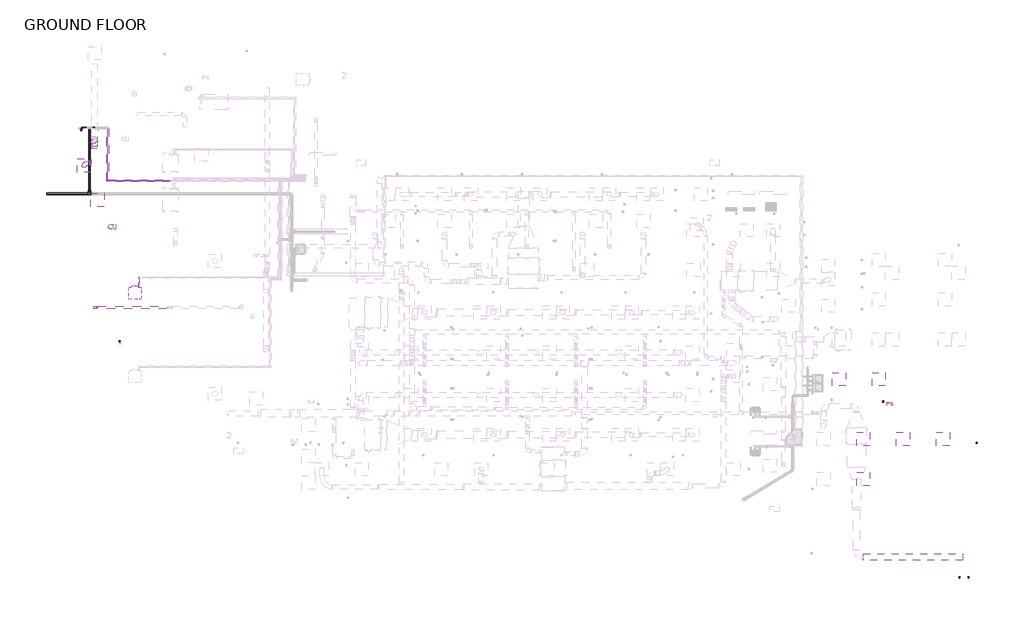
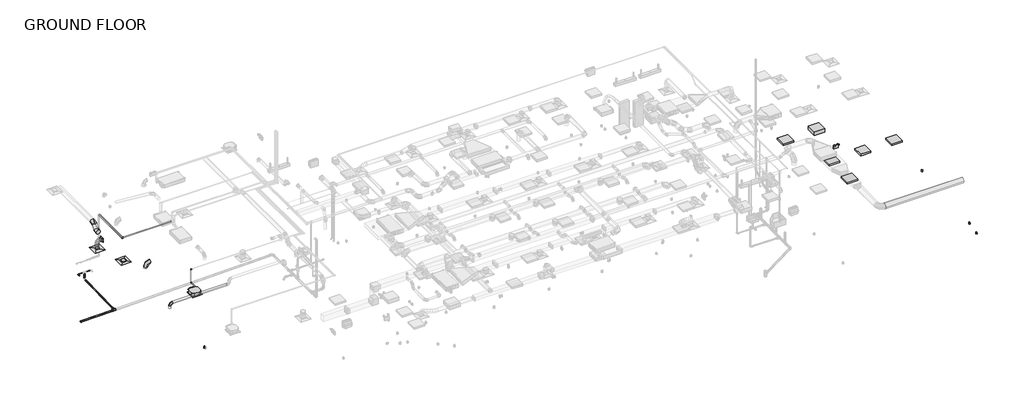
# One storey, part 10 of 22: 14 pipe segments, 9 pipe fittings, 7 light fixtures, 6 duct segments, 5 duct fittings, 3 proxies, 2 air terminals, 2 switching devices, 1 electric appliance.
"""IFC4 building model written with IfcOpenShell, lengths in millimetres."""

from ifc_helpers import new_model, si_unit, point, frame, frame_2d, origin, place, context, project, spatial, circle_curve, ellipse_curve, trimmed, segment, composite_curve, outline, extrude, transform, mapped, element, save
from ifc_brep_helpers import plane_surface, cylinder_surface, advanced_brep
from components import air_terminal_a1f6e78c, air_terminal_e9020785, mechanical_equipment_2d84379e, duplex_receptacle_countertop_10251bba, rectangular_to_round_transition_angle_45_degree_544928fe, round_elbow_1_d_df495868, round_elbow_1_d_c80420c1, round_elbow_1_d_ea3dccb8, telephone_outlet_data_plain_18c24199, emergency_wall_light_120v_37438f40, troffer_corner_insert_2x2_3_lamp_emergency_29e3a813, troffer_corner_insert_2x2_3lamp_e67c7f8f, bend_pvc_sch_40_dwv_standard_7031e9b3, elbow_generic_standard_c06ac706, elbow_generic_standard_a088f956, elbow_generic_standard_339fed54, reducer_pvc_sch_40_dwv_standard_464ee0c2, tee_sanitary_pvc_sch_40_dwv_standard_8cfb1b04

model = new_model("IFC4")

# Units and contexts
model_context = context("Model", 3, world=origin())
ifc_project = project(units=[si_unit("LENGTHUNIT", "METRE", prefix="MILLI")], contexts=[model_context])

# Site, building, storey
site = spatial("IfcSite", under=ifc_project)
building = spatial("IfcBuilding", under=site)
storey = spatial("IfcBuildingStorey", under=building, Name="GROUND FLOOR", Elevation=30480.0)

# Air terminals
placement = place(None, origin())
air_terminal_shape = air_terminal_a1f6e78c(model_context)
element("IfcAirTerminal", 1, ObjectType="Supply Diffuser - Rectangular Face Round Neck - Hosted : 24\"x24\" Face 10\" Neck - Hosted", at=placement, inside=storey, context=model_context, shape_type="MappedRepresentation", body=[
    mapped(air_terminal_shape, transform((-18995.0704607, 6554.1945005, 32715.2), x_axis=(-1.0, 0.0, 0.0), y_axis=(0.0, 1.0, 0.0), z_axis=(0.0, 0.0, -1.0))),
])
air_terminal_2_shape = air_terminal_e9020785(model_context)
element("IfcAirTerminal", 2, ObjectType="Supply Diffuser - Rectangular Face Round Neck - Hosted : 24\"x24\" Face 8\" Neck - Hosted", at=placement, inside=storey, context=model_context, shape_type="MappedRepresentation", body=[
    mapped(air_terminal_2_shape, transform((-19604.6704607, 8141.6945005, 32715.2), x_axis=(-1.0, 0.0, 0.0), y_axis=(0.0, 1.0, 0.0), z_axis=(0.0, 0.0, -1.0))),
])

# Proxies
mechanical_equipment_shape = mechanical_equipment_2d84379e(model_context)
element("IfcBuildingElementProxy", 3, Name="PLFY-P-NCMU-E_4-way_24x24 : PLFY-P12NCMU-E", ObjectType="PLFY-P-NCMU-E_4-way_24x24 : PLFY-P12NCMU-E", at=placement, inside=storey, context=model_context, shape_type="MappedRepresentation", body=[
    mapped(mechanical_equipment_shape, transform((-17276.6017107, 2201.5275529, 32715.2), x_axis=(1.0, 0.0, 0.0), y_axis=(0.0, -1.0, 0.0), z_axis=(0.0, 0.0, -1.0))),
])
duplex_receptacle_countertop_shape = duplex_receptacle_countertop_10251bba(model_context)
element("IfcBuildingElementProxy", 4, Name="Duplex Receptacle : Standard", ObjectType="Duplex Receptacle : Standard", at=placement, inside=storey, context=model_context, shape_type="MappedRepresentation", body=[
    mapped(duplex_receptacle_countertop_shape, transform((21007.7586319, -10752.7304995, 30937.2), x_axis=(-1.0, 0.0, 0.0), y_axis=(0.0, 0.0, 1.0), z_axis=(0.0, 1.0, 0.0))),
])
element("IfcBuildingElementProxy", 5, Name="Duplex Receptacle : Standard", ObjectType="Duplex Receptacle : Standard", at=placement, inside=storey, context=model_context, shape_type="MappedRepresentation", body=[
    mapped(duplex_receptacle_countertop_shape, transform((21366.2736799, -4602.187198, 30937.2), x_axis=(0.0, -1.0, 0.0), y_axis=(0.0, 0.0, 1.0), z_axis=(-1.0, 0.0, 0.0))),
])

# Duct fittings
rectangular_to_round_transition_angle_45_degree_shape = rectangular_to_round_transition_angle_45_degree_544928fe(model_context)
element("IfcDuctFitting", 6, ObjectType="Rectangular to Round Transition - Angle : 45 Degree", at=placement, inside=storey, context=model_context, shape_type="MappedRepresentation", body=[
    mapped(rectangular_to_round_transition_angle_45_degree_shape, transform((-19272.8829607, 8243.4520797, 33126.0074624), x_axis=(-0.9999999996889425, 0.0, 2.4942236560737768e-05), y_axis=(0.0, -1.0000000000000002, 0.0), z_axis=(2.4942236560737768e-05, 0.0, 0.9999999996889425))),
])
round_elbow_1_d_shape = round_elbow_1_d_df495868(model_context)
element("IfcDuctFitting", 7, ObjectType="Round Elbow : 1 D", at=placement, inside=storey, context=model_context, shape_type="MappedRepresentation", body=[
    mapped(round_elbow_1_d_shape, transform((-18385.4704607, 5334.9945005, 33121.6), x_axis=(0.0, 0.0, 1.0), y_axis=(1.0, 0.0, 0.0), z_axis=(0.0, 1.0, 0.0))),
])
round_elbow_1_d_2_shape = round_elbow_1_d_c80420c1(model_context)
element("IfcDuctFitting", 8, ObjectType="Round Elbow : 1 D", at=placement, inside=storey, context=model_context, shape_type="MappedRepresentation", body=[
    mapped(round_elbow_1_d_2_shape, transform((-19110.9579607, 1613.8945005, 33121.6), x_axis=(0.0, 0.0, 1.0), y_axis=(1.0, 0.0, 0.0), z_axis=(0.0, 1.0, 0.0))),
])
round_elbow_1_d_3_shape = round_elbow_1_d_ea3dccb8(model_context)
element("IfcDuctFitting", 9, ObjectType="Round Elbow : 1 D", at=placement, inside=storey, context=model_context, shape_type="MappedRepresentation", body=[
    mapped(round_elbow_1_d_3_shape, transform((-19120.4829607, 9003.6440535, 33126.0036612), x_axis=(0.0, 1.0, 0.0), y_axis=(0.0, 0.0, 1.0), z_axis=(1.0, 0.0, 0.0))),
])
element("IfcDuctFitting", 10, ObjectType="Round Elbow : 1 D", at=placement, inside=storey, context=model_context, shape_type="MappedRepresentation", body=[
    mapped(round_elbow_1_d_3_shape, transform((-19120.4829607, 9354.8403924, 33477.2), x_axis=(0.0, 0.707106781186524, 0.7071067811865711), y_axis=(0.0, 0.7071067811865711, -0.707106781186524), z_axis=(-1.0, 0.0, 0.0))),
])

# Duct segments
element("IfcDuctSegment", 11, ObjectType="Flex - Round", at=placement, inside=storey, context=model_context, shape_type="AdvancedBrep", body=[
    advanced_brep(
    [(-19334.2039851, 8141.8520797, 33126.0089919), (-19334.2065193, 8243.4520797, 33024.4089919), (-19334.2039851, 8345.0520797, 33126.0089919), (-19334.201451, 8243.4520797, 33227.6089918), (-19339.3953235, 8141.8520797, 33126.0091214), (-19340.589868, 8243.4520797, 33024.4091511), (-19337.3595831, 8345.0520797, 33126.0090706), (-19336.1650386, 8243.4520797, 33227.6090408), (-19571.3746602, 8045.7051799, 32769.175), (-19700.6597813, 8108.3987, 32769.175), (-19637.9662612, 8237.6838211, 32769.175), (-19508.6811401, 8174.990301, 32769.175), (-19406.4431173, 8143.1962762, 33128.9291558), (-19402.5083386, 8244.6934419, 33027.1057956), (-19412.9036409, 8346.5666122, 33129.2991304), (-19416.8384197, 8245.0694466, 33231.1224905), (-19458.1959934, 8138.8316889, 33119.2963139), (-19433.6401005, 8242.0679396, 33021.3111932), (-19496.173822, 8339.5440078, 33113.7999244), (-19520.7297149, 8236.3077571, 33211.785045), (-19497.1563337, 8124.9192335, 33086.9890267), (-19453.0278625, 8235.1447102, 33005.2341778), (-19559.6360729, 8316.8820975, 33061.1747893), (-19603.7645441, 8206.6566208, 33142.9296382), (-19530.1815615, 8102.0336622, 33028.1559055), (-19476.4370244, 8218.9228071, 32963.531693), (-19599.3318789, 8289.3739996, 32990.4583001), (-19653.076416, 8172.4848547, 33055.0825126), (-19553.6660683, 8076.2518524, 32949.9398995), (-19494.9390578, 8198.6108666, 32901.9099964), (-19622.8542209, 8263.5506536, 32912.116283), (-19681.5812314, 8141.1916394, 32960.1461861), (-19567.1119955, 8054.8656115, 32861.6704606), (-19505.5237169, 8181.7755775, 32832.4241281), (-19634.6883299, 8244.7280686, 32834.4280616), (-19696.2766085, 8117.8181025, 32863.6743941), (-19571.3746602, 8045.7051799, 32785.4279752), (-19508.6811401, 8174.990301, 32775.9501136), (-19637.9662612, 8237.6838211, 32775.7986259), (-19700.6597813, 8108.3987, 32785.2764875)],
    [
        (0, 1, circle_curve(frame((-19334.2039851, 8243.4520797, 33126.0089919), z_axis=(0.9999999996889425, 0.0, -2.4942236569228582e-05), x_axis=(0.0, -1.0, 0.0)), 101.6)),
        (1, 2, circle_curve(frame((-19334.2039851, 8243.4520797, 33126.0089919), z_axis=(0.9999999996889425, 0.0, -2.4942236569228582e-05), x_axis=(0.0, -1.0, 0.0)), 101.6)),
        (2, 3, circle_curve(frame((-19334.2039851, 8243.4520797, 33126.0089919), z_axis=(0.9999999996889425, 0.0, -2.4942236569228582e-05), x_axis=(0.0, -1.0, 0.0)), 101.6)),
        (3, 0, circle_curve(frame((-19334.2039851, 8243.4520797, 33126.0089919), z_axis=(0.9999999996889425, 0.0, -2.4942236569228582e-05), x_axis=(0.0, -1.0, 0.0)), 101.6)),
        (0, 4),
        (4, 5, ellipse_curve(frame((-19338.3774533, 8243.4520797, 33126.009096), z_axis=(0.9997128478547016, -0.010015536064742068, -0.02176949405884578), x_axis=(0.023962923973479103, 0.41823517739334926, 0.9080226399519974)), 101.6291279, 101.6)),
        (5, 1),
        (5, 6, ellipse_curve(frame((-19338.3774533, 8243.4520797, 33126.009096), z_axis=(0.9997128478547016, -0.010015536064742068, -0.02176949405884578), x_axis=(0.023962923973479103, 0.41823517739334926, 0.9080226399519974)), 101.6291279, 101.6)),
        (6, 2),
        (6, 7, ellipse_curve(frame((-19338.3774533, 8243.4520797, 33126.009096), z_axis=(0.9997128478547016, -0.010015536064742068, -0.02176949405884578), x_axis=(0.023962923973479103, 0.41823517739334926, 0.9080226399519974)), 101.6291279, 101.6)),
        (7, 3),
        (7, 4, ellipse_curve(frame((-19338.3774533, 8243.4520797, 33126.009096), z_axis=(0.9997128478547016, -0.010015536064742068, -0.02176949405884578), x_axis=(0.023962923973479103, 0.41823517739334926, 0.9080226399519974)), 101.6291279, 101.6)),
        (8, 9, circle_curve(frame((-19604.6704607, 8141.6945005, 32769.175), z_axis=(0.0, 0.0, -1.0), x_axis=(0.32771457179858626, -0.9447767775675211, 0.0)), 101.6)),
        (9, 10, circle_curve(frame((-19604.6704607, 8141.6945005, 32769.175), z_axis=(0.0, 0.0, -1.0), x_axis=(0.32771457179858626, -0.9447767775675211, 0.0)), 101.6)),
        (10, 11, circle_curve(frame((-19604.6704607, 8141.6945005, 32769.175), z_axis=(0.0, 0.0, -1.0), x_axis=(0.32771457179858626, -0.9447767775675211, 0.0)), 101.6)),
        (11, 8, circle_curve(frame((-19604.6704607, 8141.6945005, 32769.175), z_axis=(0.0, 0.0, -1.0), x_axis=(0.32771457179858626, -0.9447767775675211, 0.0)), 101.6)),
        (4, 12),
        (12, 13, ellipse_curve(frame((-19409.6733791, 8244.8814442, 33129.1141431), z_axis=(0.9970498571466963, 0.03154626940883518, 0.06997438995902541), x_axis=(0.07675629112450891, -0.4125398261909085, -0.9077000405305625)), 102.395597, 101.6)),
        (13, 5),
        (13, 14, ellipse_curve(frame((-19409.6733791, 8244.8814442, 33129.1141431), z_axis=(0.9970498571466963, 0.03154626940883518, 0.06997438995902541), x_axis=(0.07675629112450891, -0.4125398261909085, -0.9077000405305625)), 102.395597, 101.6)),
        (14, 6),
        (14, 15, ellipse_curve(frame((-19409.6733791, 8244.8814442, 33129.1141431), z_axis=(0.9970498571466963, 0.03154626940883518, 0.06997438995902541), x_axis=(0.07675629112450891, -0.4125398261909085, -0.9077000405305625)), 102.395597, 101.6)),
        (15, 7),
        (15, 12, ellipse_curve(frame((-19409.6733791, 8244.8814442, 33129.1141431), z_axis=(0.9970498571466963, 0.03154626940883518, 0.06997438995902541), x_axis=(0.07675629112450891, -0.4125398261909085, -0.9077000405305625)), 102.395597, 101.6)),
        (12, 16),
        (16, 17, ellipse_curve(frame((-19477.1849077, 8239.1878483, 33116.5481191), z_axis=(0.892486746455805, 0.18019602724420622, 0.41351759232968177), x_axis=(0.4510463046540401, -0.34642325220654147, -0.8225254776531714)), 105.3159408, 101.6)),
        (17, 13),
        (17, 18, ellipse_curve(frame((-19477.1849077, 8239.1878483, 33116.5481191), z_axis=(0.892486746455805, 0.18019602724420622, 0.41351759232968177), x_axis=(0.4510463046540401, -0.34642325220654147, -0.8225254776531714)), 105.3159408, 101.6)),
        (18, 14),
        (18, 19, ellipse_curve(frame((-19477.1849077, 8239.1878483, 33116.5481191), z_axis=(0.892486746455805, 0.18019602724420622, 0.41351759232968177), x_axis=(0.4510463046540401, -0.34642325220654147, -0.8225254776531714)), 105.3159408, 101.6)),
        (19, 15),
        (19, 16, ellipse_curve(frame((-19477.1849077, 8239.1878483, 33116.5481191), z_axis=(0.892486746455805, 0.18019602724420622, 0.41351759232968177), x_axis=(0.4510463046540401, -0.34642325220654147, -0.8225254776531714)), 105.3159408, 101.6)),
        (16, 20),
        (20, 21, ellipse_curve(frame((-19528.3962033, 8220.9006655, 33074.081908), z_axis=(0.612545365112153, 0.297830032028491, 0.7321785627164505), x_axis=(0.7880932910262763, -0.158863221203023, -0.5947028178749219)), 103.2263921, 101.6)),
        (21, 17),
        (21, 22, ellipse_curve(frame((-19528.3962033, 8220.9006655, 33074.081908), z_axis=(0.612545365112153, 0.297830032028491, 0.7321785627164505), x_axis=(0.7880932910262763, -0.158863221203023, -0.5947028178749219)), 103.2263921, 101.6)),
        (22, 18),
        (22, 23, ellipse_curve(frame((-19528.3962033, 8220.9006655, 33074.081908), z_axis=(0.612545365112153, 0.297830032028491, 0.7321785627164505), x_axis=(0.7880932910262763, -0.158863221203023, -0.5947028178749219)), 103.2263921, 101.6)),
        (23, 19),
        (23, 20, ellipse_curve(frame((-19528.3962033, 8220.9006655, 33074.081908), z_axis=(0.612545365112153, 0.297830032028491, 0.7321785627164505), x_axis=(0.7880932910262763, -0.158863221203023, -0.5947028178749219)), 103.2263921, 101.6)),
        (20, 24),
        (24, 25, ellipse_curve(frame((-19564.7567202, 8195.7038309, 33009.3071028), z_axis=(0.3709301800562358, 0.3128621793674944, 0.8743729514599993), x_axis=(0.9034628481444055, 0.09626809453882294, -0.4177168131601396)), 102.1623078, 101.6)),
        (25, 21),
        (25, 26, ellipse_curve(frame((-19564.7567202, 8195.7038309, 33009.3071028), z_axis=(0.3709301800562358, 0.3128621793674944, 0.8743729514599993), x_axis=(0.9034628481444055, 0.09626809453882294, -0.4177168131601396)), 102.1623078, 101.6)),
        (26, 22),
        (26, 27, ellipse_curve(frame((-19564.7567202, 8195.7038309, 33009.3071028), z_axis=(0.3709301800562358, 0.3128621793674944, 0.8743729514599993), x_axis=(0.9034628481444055, 0.09626809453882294, -0.4177168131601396)), 102.1623078, 101.6)),
        (27, 23),
        (27, 24, ellipse_curve(frame((-19564.7567202, 8195.7038309, 33009.3071028), z_axis=(0.3709301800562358, 0.3128621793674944, 0.8743729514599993), x_axis=(0.9034628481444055, 0.09626809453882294, -0.4177168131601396)), 102.1623078, 101.6)),
        (24, 28),
        (28, 29, ellipse_curve(frame((-19588.2601446, 8169.901253, 32931.0280912), z_axis=(0.21095319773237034, 0.26777325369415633, 0.9401043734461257), x_axis=(0.8374803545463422, 0.44647609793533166, -0.31509641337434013)), 101.8969452, 101.6)),
        (29, 25),
        (29, 30, ellipse_curve(frame((-19588.2601446, 8169.901253, 32931.0280912), z_axis=(0.21095319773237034, 0.26777325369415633, 0.9401043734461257), x_axis=(0.8374803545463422, 0.44647609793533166, -0.31509641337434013)), 101.8969452, 101.6)),
        (30, 26),
        (30, 31, ellipse_curve(frame((-19588.2601446, 8169.901253, 32931.0280912), z_axis=(0.21095319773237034, 0.26777325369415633, 0.9401043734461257), x_axis=(0.8374803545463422, 0.44647609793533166, -0.31509641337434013)), 101.8969452, 101.6)),
        (31, 27),
        (31, 28, ellipse_curve(frame((-19588.2601446, 8169.901253, 32931.0280912), z_axis=(0.21095319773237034, 0.26777325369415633, 0.9401043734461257), x_axis=(0.8374803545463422, 0.44647609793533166, -0.31509641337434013)), 101.8969452, 101.6)),
        (28, 32),
        (32, 33, ellipse_curve(frame((-19600.9001627, 8149.79684, 32848.0492611), z_axis=(0.10121724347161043, 0.17650886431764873, 0.9790810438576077), x_axis=(0.6117779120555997, 0.765023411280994, -0.20116402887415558)), 101.882316, 101.6)),
        (33, 29),
        (33, 34, ellipse_curve(frame((-19600.9001627, 8149.79684, 32848.0492611), z_axis=(0.10121724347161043, 0.17650886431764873, 0.9790810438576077), x_axis=(0.6117779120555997, 0.765023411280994, -0.20116402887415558)), 101.882316, 101.6)),
        (34, 30),
        (34, 35, ellipse_curve(frame((-19600.9001627, 8149.79684, 32848.0492611), z_axis=(0.10121724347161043, 0.17650886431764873, 0.9790810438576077), x_axis=(0.6117779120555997, 0.765023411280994, -0.20116402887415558)), 101.882316, 101.6)),
        (35, 31),
        (35, 32, ellipse_curve(frame((-19600.9001627, 8149.79684, 32848.0492611), z_axis=(0.10121724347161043, 0.17650886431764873, 0.9790810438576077), x_axis=(0.6117779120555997, 0.765023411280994, -0.20116402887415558)), 101.882316, 101.6)),
        (32, 36),
        (36, 37, ellipse_curve(frame((-19604.6704607, 8141.6945005, 32780.6133005), z_axis=(0.027772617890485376, 0.05968312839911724, 0.9978309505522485), x_axis=(0.42097828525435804, 0.9046788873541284, -0.06582852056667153)), 101.8208545, 101.6)),
        (37, 33),
        (37, 38, ellipse_curve(frame((-19604.6704607, 8141.6945005, 32780.6133005), z_axis=(0.027772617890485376, 0.05968312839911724, 0.9978309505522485), x_axis=(0.42097828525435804, 0.9046788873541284, -0.06582852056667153)), 101.8208545, 101.6)),
        (38, 34),
        (38, 39, ellipse_curve(frame((-19604.6704607, 8141.6945005, 32780.6133005), z_axis=(0.027772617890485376, 0.05968312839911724, 0.9978309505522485), x_axis=(0.42097828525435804, 0.9046788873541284, -0.06582852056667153)), 101.8208545, 101.6)),
        (39, 35),
        (39, 36, ellipse_curve(frame((-19604.6704607, 8141.6945005, 32780.6133005), z_axis=(0.027772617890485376, 0.05968312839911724, 0.9978309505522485), x_axis=(0.42097828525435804, 0.9046788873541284, -0.06582852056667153)), 101.8208545, 101.6)),
        (36, 8),
        (11, 37),
        (10, 38),
        (9, 39),
    ],
    [
        plane_surface(frame((-19334.2065193, 8243.4520797, 33024.4089919), z_axis=(0.9999999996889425, 0.0, -2.4942236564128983e-05), x_axis=(0.0, -1.0, 0.0))),
        cylinder_surface(frame((-19334.2039851, 8243.4520797, 33126.0089919), z_axis=(0.9999999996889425, 0.0, -2.4942236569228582e-05), x_axis=(0.0, -1.0, 0.0)), 101.6),
        plane_surface(frame((-19604.6704607, 8040.0945005, 32769.175), z_axis=(0.0, 0.0, -1.0), x_axis=(-1.0, 0.0, 0.0))),
        cylinder_surface(frame((-19338.3774533, 8243.4520797, 33126.009096), z_axis=(0.998852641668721, -0.020025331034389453, -0.04350156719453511), x_axis=(-0.020025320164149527, -0.9997993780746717, 0.0004360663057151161)), 101.6),
        cylinder_surface(frame((-19409.6733791, 8244.8814442, 33129.1141431), z_axis=(0.979753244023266, 0.0826276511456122, 0.18236296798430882), x_axis=(0.08262229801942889, -0.996551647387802, 0.007640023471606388)), 101.6),
        cylinder_surface(frame((-19477.1849077, 8239.1878483, 33116.5481191), z_axis=(0.7422396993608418, 0.26504842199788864, 0.6154913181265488), x_axis=(0.26589633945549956, -0.9595480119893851, 0.09255673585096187)), 101.6),
        cylinder_surface(frame((-19528.3962033, 8220.9006655, 33074.081908), z_axis=(0.4635490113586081, 0.3212266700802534, 0.8257940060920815), x_axis=(0.33344856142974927, -0.926702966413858, 0.17330224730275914)), 101.6),
        cylinder_surface(frame((-19564.7567202, 8195.7038309, 33009.3071028), z_axis=(0.274228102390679, 0.3010536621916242, 0.913326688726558), x_axis=(0.34436383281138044, -0.9174964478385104, 0.19903220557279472)), 101.6),
        cylinder_surface(frame((-19588.2601446, 8169.901253, 32931.0280912), z_axis=(0.14644878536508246, 0.23293217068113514, 0.9614028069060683), x_axis=(0.3384256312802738, -0.9250340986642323, 0.1725688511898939)), 101.6),
        cylinder_surface(frame((-19600.9001627, 8149.79684, 32848.0492611), z_axis=(0.05542475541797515, 0.11910734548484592, 0.9913332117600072), x_axis=(0.33034106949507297, -0.9391324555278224, 0.09436635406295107)), 101.6),
        cylinder_surface(frame((-19604.6704607, 8141.6945005, 32780.6133005), z_axis=(0.0, 0.0, 1.0), x_axis=(0.32771457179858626, -0.9447767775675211, 0.0)), 101.6),
    ],
    [
        (0, [[1, 2, 3, 4]]),
        (1, [[-1, 5, 6, 7]]),
        (1, [[-2, -7, 8, 9]]),
        (1, [[-3, -9, 10, 11]]),
        (1, [[-4, -11, 12, -5]]),
        (2, [[13, 14, 15, 16]]),
        (3, [[-6, 17, 18, 19]]),
        (3, [[-8, -19, 20, 21]]),
        (3, [[-10, -21, 22, 23]]),
        (3, [[-12, -23, 24, -17]]),
        (4, [[-18, 25, 26, 27]]),
        (4, [[-20, -27, 28, 29]]),
        (4, [[-22, -29, 30, 31]]),
        (4, [[-24, -31, 32, -25]]),
        (5, [[-26, 33, 34, 35]]),
        (5, [[-28, -35, 36, 37]]),
        (5, [[-30, -37, 38, 39]]),
        (5, [[-32, -39, 40, -33]]),
        (6, [[-34, 41, 42, 43]]),
        (6, [[-36, -43, 44, 45]]),
        (6, [[-38, -45, 46, 47]]),
        (6, [[-40, -47, 48, -41]]),
        (7, [[-42, 49, 50, 51]]),
        (7, [[-44, -51, 52, 53]]),
        (7, [[-46, -53, 54, 55]]),
        (7, [[-48, -55, 56, -49]]),
        (8, [[-50, 57, 58, 59]]),
        (8, [[-52, -59, 60, 61]]),
        (8, [[-54, -61, 62, 63]]),
        (8, [[-56, -63, 64, -57]]),
        (9, [[-58, 65, 66, 67]]),
        (9, [[-60, -67, 68, 69]]),
        (9, [[-62, -69, 70, 71]]),
        (9, [[-64, -71, 72, -65]]),
        (10, [[-66, 73, -16, 74]]),
        (10, [[-68, -74, -15, 75]]),
        (10, [[-70, -75, -14, 76]]),
        (10, [[-72, -76, -13, -73]]),
    ],
),
])
element("IfcDuctSegment", 12, ObjectType="Taps / Short Radius", at=placement, inside=storey, context=model_context, shape_type="SweptSolid", body=[
    extrude(outline(composite_curve([segment(trimmed(circle_curve(frame_2d((-18385.4704607, 5334.9945005)), 114.3), [point((-18385.4704607, 5449.2945005))], [point((-18271.1704607, 5334.9945005))], False, "CARTESIAN"), True, "CONTINUOUS"), segment(trimmed(circle_curve(frame_2d((-18385.4704607, 5334.9945005)), 114.3), [point((-18271.1704607, 5334.9945005))], [point((-18385.4704607, 5220.6945005))], False, "CARTESIAN"), True, "CONTINUOUS"), segment(trimmed(circle_curve(frame_2d((-18385.4704607, 5334.9945005)), 114.3), [point((-18385.4704607, 5220.6945005))], [point((-18499.7704607, 5334.9945005))], False, "CARTESIAN"), True, "CONTINUOUS"), segment(trimmed(circle_curve(frame_2d((-18385.4704607, 5334.9945005)), 114.3), [point((-18499.7704607, 5334.9945005))], [point((-18385.4704607, 5449.2945005))], False, "CARTESIAN"), True, "CONTINUOUS")], self_intersect=False)), frame((0.0, 0.0, 32816.8), z_axis=(0.0, 0.0, 1.0), x_axis=(1.0, 0.0, 0.0)), (0.0, 0.0, 1.0), 76.2),
])
element("IfcDuctSegment", 13, ObjectType="Taps / Short Radius", at=placement, inside=storey, context=model_context, shape_type="SweptSolid", body=[
    extrude(outline(composite_curve([segment(trimmed(circle_curve(frame_2d((-19110.9579607, 1613.8945005)), 63.5), [point((-19110.9579607, 1550.3945005))], [point((-19174.4579607, 1613.8945005))], False, "CARTESIAN"), True, "CONTINUOUS"), segment(trimmed(circle_curve(frame_2d((-19110.9579607, 1613.8945005)), 63.5), [point((-19174.4579607, 1613.8945005))], [point((-19110.9579607, 1677.3945005))], False, "CARTESIAN"), True, "CONTINUOUS"), segment(trimmed(circle_curve(frame_2d((-19110.9579607, 1613.8945005)), 63.5), [point((-19110.9579607, 1677.3945005))], [point((-19047.4579607, 1613.8945005))], False, "CARTESIAN"), True, "CONTINUOUS"), segment(trimmed(circle_curve(frame_2d((-19110.9579607, 1613.8945005)), 63.5), [point((-19047.4579607, 1613.8945005))], [point((-19110.9579607, 1550.3945005))], False, "CARTESIAN"), True, "CONTINUOUS")], self_intersect=False)), frame((0.0, 0.0, 32816.8), z_axis=(0.0, 0.0, 1.0), x_axis=(1.0, 0.0, 0.0)), (0.0, 0.0, 1.0), 177.8),
])
element("IfcDuctSegment", 14, ObjectType="Taps / Short Radius", at=placement, inside=storey, context=model_context, shape_type="SweptSolid", body=[
    extrude(outline(composite_curve([segment(trimmed(circle_curve(frame_2d((1613.8945005, 33121.6)), 63.5), [point((1550.3945005, 33121.6))], [point((1613.8945005, 33185.1))], False, "CARTESIAN"), True, "CONTINUOUS"), segment(trimmed(circle_curve(frame_2d((1613.8945005, 33121.6)), 63.5), [point((1613.8945005, 33185.1))], [point((1677.3945005, 33121.6))], False, "CARTESIAN"), True, "CONTINUOUS"), segment(trimmed(circle_curve(frame_2d((1613.8945005, 33121.6)), 63.5), [point((1677.3945005, 33121.6))], [point((1613.8945005, 33058.1))], False, "CARTESIAN"), True, "CONTINUOUS"), segment(trimmed(circle_curve(frame_2d((1613.8945005, 33121.6)), 63.5), [point((1613.8945005, 33058.1))], [point((1550.3945005, 33121.6))], False, "CARTESIAN"), True, "CONTINUOUS")], self_intersect=False)), frame((-18983.9579607, 0.0, 0.0), z_axis=(1.0, 0.0, 0.0), x_axis=(0.0, 1.0, 0.0)), (0.0, 0.0, 1.0), 3200.4),
])
element("IfcDuctSegment", 15, ObjectType="Taps / Short Radius", at=placement, inside=storey, context=model_context, shape_type="SweptSolid", body=[
    extrude(outline(composite_curve([segment(trimmed(circle_curve(frame_2d((-9838.464426, 33750.25)), 152.4), [point((-9990.864426, 33750.25))], [point((-9838.464426, 33902.65))], False, "CARTESIAN"), True, "CONTINUOUS"), segment(trimmed(circle_curve(frame_2d((-9838.464426, 33750.25)), 152.4), [point((-9838.464426, 33902.65))], [point((-9686.064426, 33750.25))], False, "CARTESIAN"), True, "CONTINUOUS"), segment(trimmed(circle_curve(frame_2d((-9838.464426, 33750.25)), 152.4), [point((-9686.064426, 33750.25))], [point((-9838.464426, 33597.85))], False, "CARTESIAN"), True, "CONTINUOUS"), segment(trimmed(circle_curve(frame_2d((-9838.464426, 33750.25)), 152.4), [point((-9838.464426, 33597.85))], [point((-9990.864426, 33750.25))], False, "CARTESIAN"), True, "CONTINUOUS")], self_intersect=False)), frame((16171.5105962, 0.0, 0.0), z_axis=(1.0, 0.0, 0.0), x_axis=(0.0, 1.0, 0.0)), (0.0, 0.0, 1.0), 4572.0),
])
element("IfcDuctSegment", 16, ObjectType="Taps / Short Radius", at=placement, inside=storey, context=model_context, shape_type="SweptSolid", body=[
    extrude(outline(composite_curve([segment(trimmed(circle_curve(frame_2d((0.0, 127.0)), 127.0), [point((-127.0, 127.0))], [point((0.0, 254.0))], False, "CARTESIAN"), True, "CONTINUOUS"), segment(trimmed(circle_curve(frame_2d((0.0, 127.0)), 127.0), [point((0.0, 254.0))], [point((127.0, 127.0))], False, "CARTESIAN"), True, "CONTINUOUS"), segment(trimmed(circle_curve(frame_2d((0.0, 127.0)), 127.0), [point((127.0, 127.0))], [point((0.0, 0.0))], False, "CARTESIAN"), True, "CONTINUOUS"), segment(trimmed(circle_curve(frame_2d((0.0, 127.0)), 127.0), [point((0.0, 0.0))], [point((-127.0, 127.0))], False, "CARTESIAN"), True, "CONTINUOUS")], self_intersect=False)), frame((-19120.4829607, 8988.2363699, 33290.2011), z_axis=(0.0, 0.707106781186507, 0.707106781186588), x_axis=(1.0, 0.0, 0.0)), (0.0, 0.0, 1.0), 286.2461357),
])

# Electric appliance
telephone_outlet_data_plain_shape = telephone_outlet_data_plain_18c24199(model_context)
element("IfcElectricAppliance", 17, ObjectType="Telephone Outlet - Data : Plain", at=placement, inside=storey, context=model_context, shape_type="MappedRepresentation", body=[
    mapped(telephone_outlet_data_plain_shape, transform((-18853.2255375, 89.8945005, 30079.95), x_axis=(-1.0, 0.0, 0.0), y_axis=(0.0, 0.0, 1.0), z_axis=(0.0, 1.0, 0.0))),
])

# Light fixtures
emergency_wall_light_120v_shape = emergency_wall_light_120v_37438f40(model_context)
element("IfcLightFixture", 18, ObjectType="Emergency Wall Light : 120V", at=placement, inside=storey, context=model_context, shape_type="MappedRepresentation", body=[
    mapped(emergency_wall_light_120v_shape, transform((17383.6742365, -2726.3304995, 32715.2), x_axis=(1.0, 0.0, 0.0), y_axis=(0.0, 0.0, 1.0), z_axis=(0.0, -1.0, 0.0))),
])
troffer_corner_insert_2x2_3_lamp_emergency_shape = troffer_corner_insert_2x2_3_lamp_emergency_29e3a813(model_context)
element("IfcLightFixture", 19, ObjectType="Troffer Corner Insert : 2x2 3 Lamp Emergency", at=placement, inside=storey, context=model_context, shape_type="MappedRepresentation", body=[
    mapped(troffer_corner_insert_2x2_3_lamp_emergency_shape, transform((16887.1920393, -1676.9929995, 30784.8), x_axis=(1.0, 0.0, 0.0), y_axis=(0.0, 1.0, 0.0), z_axis=(0.0, 0.0, 1.0))),
])
troffer_corner_insert_2x2_3lamp_shape = troffer_corner_insert_2x2_3lamp_e67c7f8f(model_context)
element("IfcLightFixture", 20, ObjectType="Troffer Corner Insert : 2x2 3Lamp", at=placement, inside=storey, context=model_context, shape_type="MappedRepresentation", body=[
    mapped(troffer_corner_insert_2x2_3lamp_shape, transform((15058.3920393, -1676.9929995, 30784.8), x_axis=(1.0, 0.0, 0.0), y_axis=(0.0, 1.0, 0.0), z_axis=(0.0, 0.0, 1.0))),
])
element("IfcLightFixture", 21, ObjectType="Troffer Corner Insert : 2x2 3Lamp", at=placement, inside=storey, context=model_context, shape_type="MappedRepresentation", body=[
    mapped(troffer_corner_insert_2x2_3lamp_shape, transform((16174.4045393, -4424.9554995, 30784.8), x_axis=(1.0, 0.0, 0.0), y_axis=(0.0, 1.0, 0.0), z_axis=(0.0, 0.0, 1.0))),
])
element("IfcLightFixture", 22, ObjectType="Troffer Corner Insert : 2x2 3Lamp", at=placement, inside=storey, context=model_context, shape_type="MappedRepresentation", body=[
    mapped(troffer_corner_insert_2x2_3lamp_shape, transform((16174.4045393, -6253.7554995, 30784.8), x_axis=(1.0, 0.0, 0.0), y_axis=(0.0, 1.0, 0.0), z_axis=(0.0, 0.0, 1.0))),
])
element("IfcLightFixture", 23, ObjectType="Troffer Corner Insert : 2x2 3Lamp", at=placement, inside=storey, context=model_context, shape_type="MappedRepresentation", body=[
    mapped(troffer_corner_insert_2x2_3lamp_shape, transform((18003.2045393, -4424.9554995, 30784.8), x_axis=(1.0, 0.0, 0.0), y_axis=(0.0, 1.0, 0.0), z_axis=(0.0, 0.0, 1.0))),
])
element("IfcLightFixture", 24, ObjectType="Troffer Corner Insert : 2x2 3Lamp", at=placement, inside=storey, context=model_context, shape_type="MappedRepresentation", body=[
    mapped(troffer_corner_insert_2x2_3lamp_shape, transform((19832.0045393, -4424.9554995, 30784.8), x_axis=(1.0, 0.0, 0.0), y_axis=(0.0, 1.0, 0.0), z_axis=(0.0, 0.0, 1.0))),
])

# Pipe fittings
bend_pvc_sch_40_dwv_standard_shape = bend_pvc_sch_40_dwv_standard_7031e9b3(model_context)
element("IfcPipeFitting", 25, ObjectType="Bend - PVC - Sch 40 - DWV : Standard", at=placement, inside=storey, context=model_context, shape_type="MappedRepresentation", body=[
    mapped(bend_pvc_sch_40_dwv_standard_shape, transform((-19734.7969715, 9873.9042449, 30124.4), x_axis=(-1.0, 0.0, 0.0), y_axis=(0.0, -1.0, 0.0), z_axis=(0.0, 0.0, 1.0))),
])
elbow_generic_standard_shape = elbow_generic_standard_c06ac706(model_context)
element("IfcPipeFitting", 26, ObjectType="Elbow - Generic : Standard", at=placement, inside=storey, context=model_context, shape_type="MappedRepresentation", body=[
    mapped(elbow_generic_standard_shape, transform((-17078.1642107, 2984.2674809, 32865.2187602), x_axis=(0.0, 1.0, 0.0), y_axis=(0.0, 0.0, 1.0), z_axis=(1.0, 0.0, 0.0))),
])
element("IfcPipeFitting", 27, ObjectType="Elbow - Generic : Standard", at=placement, inside=storey, context=model_context, shape_type="MappedRepresentation", body=[
    mapped(elbow_generic_standard_shape, transform((-17078.1642107, 2984.2674809, 33680.4), x_axis=(0.0, 0.0, 1.0), y_axis=(1.0, 0.0, 0.0), z_axis=(0.0, 1.0, 0.0))),
])
element("IfcPipeFitting", 28, ObjectType="Elbow - Generic : Standard", at=placement, inside=storey, context=model_context, shape_type="MappedRepresentation", body=[
    mapped(elbow_generic_standard_shape, transform((-18495.0079607, 7460.2718518, 33436.8475147), x_axis=(0.0, -1.0, 0.0), y_axis=(1.0, 0.0, 0.0), z_axis=(0.0, 0.0, 1.0))),
])
element("IfcPipeFitting", 29, ObjectType="Elbow - Generic : Standard", at=placement, inside=storey, context=model_context, shape_type="MappedRepresentation", body=[
    mapped(elbow_generic_standard_shape, transform((-18552.1579607, 7415.8218518, 33436.8475147), x_axis=(0.0, -1.0, 0.0), y_axis=(1.0, 0.0, 0.0), z_axis=(0.0, 0.0, 1.0))),
])
elbow_generic_standard_2_shape = elbow_generic_standard_a088f956(model_context)
element("IfcPipeFitting", 30, ObjectType="Elbow - Generic : Standard", at=placement, inside=storey, context=model_context, shape_type="MappedRepresentation", body=[
    mapped(elbow_generic_standard_2_shape, transform((-17074.9892107, 3013.8265677, 33680.4), x_axis=(0.0, 0.0, 1.0), y_axis=(1.0, 0.0, 0.0), z_axis=(0.0, 1.0, 0.0))),
])
elbow_generic_standard_3_shape = elbow_generic_standard_339fed54(model_context)
element("IfcPipeFitting", 31, ObjectType="Elbow - Generic : Standard", at=placement, inside=storey, context=model_context, shape_type="MappedRepresentation", body=[
    mapped(elbow_generic_standard_3_shape, transform((-17074.9892107, 3013.8265677, 32835.85), x_axis=(0.0, 0.9999999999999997, -2.6880093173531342e-08), y_axis=(0.0, 2.6880093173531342e-08, 0.9999999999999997), z_axis=(1.0, 0.0, 0.0))),
])
reducer_pvc_sch_40_dwv_standard_shape = reducer_pvc_sch_40_dwv_standard_464ee0c2(model_context)
element("IfcPipeFitting", 32, ObjectType="Reducer - PVC - Sch 40 - DWV : Standard", at=placement, inside=storey, context=model_context, shape_type="MappedRepresentation", body=[
    mapped(reducer_pvc_sch_40_dwv_standard_shape, transform((-19353.7884265, 6960.5946599, 29631.1007616), x_axis=(0.0, 0.9997747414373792, 0.021224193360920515), y_axis=(-0.999783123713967, 0.0004420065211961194, -0.02082090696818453), z_axis=(-0.020825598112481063, -0.02121959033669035, 0.9995579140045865))),
])
tee_sanitary_pvc_sch_40_dwv_standard_shape = tee_sanitary_pvc_sch_40_dwv_standard_8cfb1b04(model_context)
element("IfcPipeFitting", 33, ObjectType="Tee Sanitary - PVC - Sch 40 - DWV : Standard", at=placement, inside=storey, context=model_context, shape_type="MappedRepresentation", body=[
    mapped(tee_sanitary_pvc_sch_40_dwv_standard_shape, transform((-19353.7884265, 6844.7205674, 29628.6408733), x_axis=(0.9997830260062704, 0.0, 0.020830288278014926), y_axis=(0.0004420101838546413, -0.9997748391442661, -0.021214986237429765), z_axis=(0.02082559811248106, 0.021219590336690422, -0.9995579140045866))),
])

# Pipe segments
element("IfcPipeSegment", 34, ObjectType="Copper Tubing", at=placement, inside=storey, context=model_context, shape_type="SweptSolid", body=[
    extrude(outline(composite_curve([segment(trimmed(circle_curve(frame_2d((32835.8500102, -17074.9892107)), 7.9375), [point((32835.8500102, -17067.0517107))], [point((32843.7875102, -17074.9892107))], False, "CARTESIAN"), True, "CONTINUOUS"), segment(trimmed(circle_curve(frame_2d((32835.8500102, -17074.9892107)), 7.9375), [point((32843.7875102, -17074.9892107))], [point((32835.8500102, -17082.9267107))], False, "CARTESIAN"), True, "CONTINUOUS"), segment(trimmed(circle_curve(frame_2d((32835.8500102, -17074.9892107)), 7.9375), [point((32835.8500102, -17082.9267107))], [point((32827.9125102, -17074.9892107))], False, "CARTESIAN"), True, "CONTINUOUS"), segment(trimmed(circle_curve(frame_2d((32835.8500102, -17074.9892107)), 7.9375), [point((32827.9125102, -17074.9892107))], [point((32835.8500102, -17067.0517107))], False, "CARTESIAN"), True, "CONTINUOUS")], self_intersect=False)), frame((0.0, 2555.1048442, 0.0), z_axis=(0.0, 1.0, 0.0), x_axis=(0.0, 0.0, 1.0)), (0.0, 0.0, 1.0), 444.4342232),
])
element("IfcPipeSegment", 35, ObjectType="Copper Tubing", at=placement, inside=storey, context=model_context, shape_type="SweptSolid", body=[
    extrude(outline(composite_curve([segment(trimmed(circle_curve(frame_2d((-17074.9892107, 3013.8265677)), 7.9375), [point((-17082.9267107, 3013.8265677))], [point((-17074.9892107, 3021.7640677))], False, "CARTESIAN"), True, "CONTINUOUS"), segment(trimmed(circle_curve(frame_2d((-17074.9892107, 3013.8265677)), 7.9375), [point((-17074.9892107, 3021.7640677))], [point((-17067.0517107, 3013.8265677))], False, "CARTESIAN"), True, "CONTINUOUS"), segment(trimmed(circle_curve(frame_2d((-17074.9892107, 3013.8265677)), 7.9375), [point((-17067.0517107, 3013.8265677))], [point((-17074.9892107, 3005.8890677))], False, "CARTESIAN"), True, "CONTINUOUS"), segment(trimmed(circle_curve(frame_2d((-17074.9892107, 3013.8265677)), 7.9375), [point((-17074.9892107, 3005.8890677))], [point((-17082.9267107, 3013.8265677))], False, "CARTESIAN"), True, "CONTINUOUS")], self_intersect=False)), frame((0.0, 0.0, 32850.1375004), z_axis=(0.0, 0.0, 1.0), x_axis=(1.0, 0.0, 0.0)), (0.0, 0.0, 1.0), 815.9749996),
])
element("IfcPipeSegment", 36, ObjectType="Copper Tubing", at=placement, inside=storey, context=model_context, shape_type="SweptSolid", body=[
    extrude(outline(composite_curve([segment(trimmed(circle_curve(frame_2d((32865.2187602, -17078.1642107)), 14.2875), [point((32865.2187602, -17063.8767107))], [point((32879.5062602, -17078.1642107))], False, "CARTESIAN"), True, "CONTINUOUS"), segment(trimmed(circle_curve(frame_2d((32865.2187602, -17078.1642107)), 14.2875), [point((32879.5062602, -17078.1642107))], [point((32865.2187602, -17092.4517107))], False, "CARTESIAN"), True, "CONTINUOUS"), segment(trimmed(circle_curve(frame_2d((32865.2187602, -17078.1642107)), 14.2875), [point((32865.2187602, -17092.4517107))], [point((32850.9312602, -17078.1642107))], False, "CARTESIAN"), True, "CONTINUOUS"), segment(trimmed(circle_curve(frame_2d((32865.2187602, -17078.1642107)), 14.2875), [point((32850.9312602, -17078.1642107))], [point((32865.2187602, -17063.8767107))], False, "CARTESIAN"), True, "CONTINUOUS")], self_intersect=False)), frame((0.0, 2555.1048442, 0.0), z_axis=(0.0, 1.0, 0.0), x_axis=(0.0, 0.0, 1.0)), (0.0, 0.0, 1.0), 408.5251368),
])
element("IfcPipeSegment", 37, ObjectType="Copper Tubing", at=placement, inside=storey, context=model_context, shape_type="SweptSolid", body=[
    extrude(outline(composite_curve([segment(trimmed(circle_curve(frame_2d((-17078.1642107, 2984.2674809)), 14.2875), [point((-17092.4517107, 2984.2674809))], [point((-17078.1642107, 2998.5549809))], False, "CARTESIAN"), True, "CONTINUOUS"), segment(trimmed(circle_curve(frame_2d((-17078.1642107, 2984.2674809)), 14.2875), [point((-17078.1642107, 2998.5549809))], [point((-17063.8767107, 2984.2674809))], False, "CARTESIAN"), True, "CONTINUOUS"), segment(trimmed(circle_curve(frame_2d((-17078.1642107, 2984.2674809)), 14.2875), [point((-17063.8767107, 2984.2674809))], [point((-17078.1642107, 2969.9799809))], False, "CARTESIAN"), True, "CONTINUOUS"), segment(trimmed(circle_curve(frame_2d((-17078.1642107, 2984.2674809)), 14.2875), [point((-17078.1642107, 2969.9799809))], [point((-17092.4517107, 2984.2674809))], False, "CARTESIAN"), True, "CONTINUOUS")], self_intersect=False)), frame((0.0, 0.0, 32885.8562602), z_axis=(0.0, 0.0, 1.0), x_axis=(1.0, 0.0, 0.0)), (0.0, 0.0, 1.0), 773.9062398),
])
element("IfcPipeSegment", 38, ObjectType="Copper Tubing", at=placement, inside=storey, context=model_context, shape_type="SweptSolid", body=[
    extrude(outline(composite_curve([segment(trimmed(circle_curve(frame_2d((33436.8475147, -18495.0079607)), 14.2875), [point((33436.8475147, -18480.7204607))], [point((33451.1350147, -18495.0079607))], False, "CARTESIAN"), True, "CONTINUOUS"), segment(trimmed(circle_curve(frame_2d((33436.8475147, -18495.0079607)), 14.2875), [point((33451.1350147, -18495.0079607))], [point((33436.8475147, -18509.2954607))], False, "CARTESIAN"), True, "CONTINUOUS"), segment(trimmed(circle_curve(frame_2d((33436.8475147, -18495.0079607)), 14.2875), [point((33436.8475147, -18509.2954607))], [point((33422.5600147, -18495.0079607))], False, "CARTESIAN"), True, "CONTINUOUS"), segment(trimmed(circle_curve(frame_2d((33436.8475147, -18495.0079607)), 14.2875), [point((33422.5600147, -18495.0079607))], [point((33436.8475147, -18480.7204607))], False, "CARTESIAN"), True, "CONTINUOUS")], self_intersect=False)), frame((0.0, 7480.9093518, 0.0), z_axis=(0.0, 1.0, 0.0), x_axis=(0.0, 0.0, 1.0)), (0.0, 0.0, 1.0), 2371.725),
])
element("IfcPipeSegment", 39, ObjectType="Copper Tubing", at=placement, inside=storey, context=model_context, shape_type="SweptSolid", body=[
    extrude(outline(composite_curve([segment(trimmed(circle_curve(frame_2d((33436.8475147, -18552.1579607)), 14.2875), [point((33436.8475147, -18537.8704607))], [point((33451.1350147, -18552.1579607))], False, "CARTESIAN"), True, "CONTINUOUS"), segment(trimmed(circle_curve(frame_2d((33436.8475147, -18552.1579607)), 14.2875), [point((33451.1350147, -18552.1579607))], [point((33436.8475147, -18566.4454607))], False, "CARTESIAN"), True, "CONTINUOUS"), segment(trimmed(circle_curve(frame_2d((33436.8475147, -18552.1579607)), 14.2875), [point((33436.8475147, -18566.4454607))], [point((33422.5600147, -18552.1579607))], False, "CARTESIAN"), True, "CONTINUOUS"), segment(trimmed(circle_curve(frame_2d((33436.8475147, -18552.1579607)), 14.2875), [point((33422.5600147, -18552.1579607))], [point((33436.8475147, -18537.8704607))], False, "CARTESIAN"), True, "CONTINUOUS")], self_intersect=False)), frame((0.0, 7436.4593518, 0.0), z_axis=(0.0, 1.0, 0.0), x_axis=(0.0, 0.0, 1.0)), (0.0, 0.0, 1.0), 2387.1924089),
])
element("IfcPipeSegment", 40, ObjectType="Copper Tubing", at=placement, inside=storey, context=model_context, shape_type="SweptSolid", body=[
    extrude(outline(composite_curve([segment(trimmed(circle_curve(frame_2d((7460.2718518, 33436.8475147)), 14.2875), [point((7445.9843518, 33436.8475147))], [point((7460.2718518, 33451.1350147))], False, "CARTESIAN"), True, "CONTINUOUS"), segment(trimmed(circle_curve(frame_2d((7460.2718518, 33436.8475147)), 14.2875), [point((7460.2718518, 33451.1350147))], [point((7474.5593518, 33436.8475147))], False, "CARTESIAN"), True, "CONTINUOUS"), segment(trimmed(circle_curve(frame_2d((7460.2718518, 33436.8475147)), 14.2875), [point((7474.5593518, 33436.8475147))], [point((7460.2718518, 33422.5600147))], False, "CARTESIAN"), True, "CONTINUOUS"), segment(trimmed(circle_curve(frame_2d((7460.2718518, 33436.8475147)), 14.2875), [point((7460.2718518, 33422.5600147))], [point((7445.9843518, 33436.8475147))], False, "CARTESIAN"), True, "CONTINUOUS")], self_intersect=False)), frame((-18474.3704607, 0.0, 0.0), z_axis=(1.0, 0.0, 0.0), x_axis=(0.0, 1.0, 0.0)), (0.0, 0.0, 1.0), 2850.35625),
])
element("IfcPipeSegment", 41, ObjectType="Copper Tubing", at=placement, inside=storey, context=model_context, shape_type="SweptSolid", body=[
    extrude(outline(composite_curve([segment(trimmed(circle_curve(frame_2d((7415.8218518, 33436.8475147)), 14.2875), [point((7401.5343518, 33436.8475147))], [point((7415.8218518, 33451.1350147))], False, "CARTESIAN"), True, "CONTINUOUS"), segment(trimmed(circle_curve(frame_2d((7415.8218518, 33436.8475147)), 14.2875), [point((7415.8218518, 33451.1350147))], [point((7430.1093518, 33436.8475147))], False, "CARTESIAN"), True, "CONTINUOUS"), segment(trimmed(circle_curve(frame_2d((7415.8218518, 33436.8475147)), 14.2875), [point((7430.1093518, 33436.8475147))], [point((7415.8218518, 33422.5600147))], False, "CARTESIAN"), True, "CONTINUOUS"), segment(trimmed(circle_curve(frame_2d((7415.8218518, 33436.8475147)), 14.2875), [point((7415.8218518, 33422.5600147))], [point((7401.5343518, 33436.8475147))], False, "CARTESIAN"), True, "CONTINUOUS")], self_intersect=False)), frame((-18531.5204607, 0.0, 0.0), z_axis=(1.0, 0.0, 0.0), x_axis=(0.0, 1.0, 0.0)), (0.0, 0.0, 1.0), 2907.50625),
])
element("IfcPipeSegment", 42, ObjectType="PVC - DWV", at=placement, inside=storey, context=model_context, shape_type="SweptSolid", body=[
    extrude(outline(composite_curve([segment(trimmed(circle_curve(frame_2d((30124.4, -19734.7969715)), 16.66875), [point((30124.4, -19751.4657215))], [point((30107.73125, -19734.7969715))], False, "CARTESIAN"), True, "CONTINUOUS"), segment(trimmed(circle_curve(frame_2d((30124.4, -19734.7969715)), 16.66875), [point((30107.73125, -19734.7969715))], [point((30124.4, -19718.1282215))], False, "CARTESIAN"), True, "CONTINUOUS"), segment(trimmed(circle_curve(frame_2d((30124.4, -19734.7969715)), 16.66875), [point((30124.4, -19718.1282215))], [point((30141.06875, -19734.7969715))], False, "CARTESIAN"), True, "CONTINUOUS"), segment(trimmed(circle_curve(frame_2d((30124.4, -19734.7969715)), 16.66875), [point((30141.06875, -19734.7969715))], [point((30124.4, -19751.4657215))], False, "CARTESIAN"), True, "CONTINUOUS")], self_intersect=False)), frame((0.0, 9723.7823074, 0.0), z_axis=(0.0, 1.0, 0.0), x_axis=(0.0, 0.0, 1.0)), (0.0, 0.0, 1.0), 97.043875),
])
element("IfcPipeSegment", 43, ObjectType="PVC - DWV", at=placement, inside=storey, context=model_context, shape_type="SweptSolid", body=[
    extrude(outline(composite_curve([segment(trimmed(circle_curve(frame_2d((9873.9042449, 30124.4)), 16.66875), [point((9890.5729949, 30124.4))], [point((9873.9042449, 30107.73125))], False, "CARTESIAN"), True, "CONTINUOUS"), segment(trimmed(circle_curve(frame_2d((9873.9042449, 30124.4)), 16.66875), [point((9873.9042449, 30107.73125))], [point((9857.2354949, 30124.4))], False, "CARTESIAN"), True, "CONTINUOUS"), segment(trimmed(circle_curve(frame_2d((9873.9042449, 30124.4)), 16.66875), [point((9857.2354949, 30124.4))], [point((9873.9042449, 30141.06875))], False, "CARTESIAN"), True, "CONTINUOUS"), segment(trimmed(circle_curve(frame_2d((9873.9042449, 30124.4)), 16.66875), [point((9873.9042449, 30141.06875))], [point((9890.5729949, 30124.4))], False, "CARTESIAN"), True, "CONTINUOUS")], self_intersect=False)), frame((-19681.718909, 0.0, 0.0), z_axis=(1.0, 0.0, 0.0), x_axis=(0.0, 1.0, 0.0)), (0.0, 0.0, 1.0), 198.112133),
])
element("IfcPipeSegment", 44, ObjectType="PVC - DWV", at=placement, inside=storey, context=model_context, shape_type="SweptSolid", body=[
    extrude(outline(composite_curve([segment(trimmed(circle_curve(frame_2d((-19353.7484822, 9873.9042449)), 30.1625), [point((-19323.5859822, 9873.9042449))], [point((-19353.7484822, 9843.7417449))], False, "CARTESIAN"), True, "CONTINUOUS"), segment(trimmed(circle_curve(frame_2d((-19353.7484822, 9873.9042449)), 30.1625), [point((-19353.7484822, 9843.7417449))], [point((-19383.9109822, 9873.9042449))], False, "CARTESIAN"), True, "CONTINUOUS"), segment(trimmed(circle_curve(frame_2d((-19353.7484822, 9873.9042449)), 30.1625), [point((-19383.9109822, 9873.9042449))], [point((-19353.7484822, 9904.0667449))], False, "CARTESIAN"), True, "CONTINUOUS"), segment(trimmed(circle_curve(frame_2d((-19353.7484822, 9873.9042449)), 30.1625), [point((-19353.7484822, 9904.0667449))], [point((-19323.5859822, 9873.9042449))], False, "CARTESIAN"), True, "CONTINUOUS")], self_intersect=False)), frame((0.0, 0.0, 29770.747539), z_axis=(0.0, 0.0, 1.0), x_axis=(1.0, 0.0, 0.0)), (0.0, 0.0, 1.0), 275.852261),
])
element("IfcPipeSegment", 45, ObjectType="PVC - DWV", at=placement, inside=storey, context=model_context, shape_type="SweptSolid", body=[
    extrude(outline(composite_curve([segment(trimmed(circle_curve(frame_2d((9873.9042449, 30124.4)), 16.66875), [point((9890.5729949, 30124.4))], [point((9873.9042449, 30107.73125))], False, "CARTESIAN"), True, "CONTINUOUS"), segment(trimmed(circle_curve(frame_2d((9873.9042449, 30124.4)), 16.66875), [point((9873.9042449, 30107.73125))], [point((9857.2354949, 30124.4))], False, "CARTESIAN"), True, "CONTINUOUS"), segment(trimmed(circle_curve(frame_2d((9873.9042449, 30124.4)), 16.66875), [point((9857.2354949, 30124.4))], [point((9873.9042449, 30141.06875))], False, "CARTESIAN"), True, "CONTINUOUS"), segment(trimmed(circle_curve(frame_2d((9873.9042449, 30124.4)), 16.66875), [point((9873.9042449, 30141.06875))], [point((9890.5729949, 30124.4))], False, "CARTESIAN"), True, "CONTINUOUS")], self_intersect=False)), frame((-19223.8901885, 0.0, 0.0), z_axis=(1.0, 0.0, 0.0), x_axis=(0.0, 1.0, 0.0)), (0.0, 0.0, 1.0), 198.112133),
])
element("IfcPipeSegment", 46, ObjectType="PVC - DWV", at=placement, inside=storey, context=model_context, shape_type="SweptSolid", body=[
    extrude(outline(composite_curve([segment(trimmed(circle_curve(frame_2d((0.0, -44.45)), 44.45), [point((0.0, 0.0))], [point((44.45, -44.45))], False, "CARTESIAN"), True, "CONTINUOUS"), segment(trimmed(circle_curve(frame_2d((0.0, -44.45)), 44.45), [point((44.45, -44.45))], [point((0.0, -88.9))], False, "CARTESIAN"), True, "CONTINUOUS"), segment(trimmed(circle_curve(frame_2d((0.0, -44.45)), 44.45), [point((0.0, -88.9))], [point((-44.45, -44.45))], False, "CARTESIAN"), True, "CONTINUOUS"), segment(trimmed(circle_curve(frame_2d((0.0, -44.45)), 44.45), [point((-44.45, -44.45))], [point((0.0, 0.0))], False, "CARTESIAN"), True, "CONTINUOUS")], self_intersect=False)), frame((-21328.735405, 6889.1705674, 29587.4932305), z_axis=(0.9997830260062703, 0.0, 0.02083028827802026), x_axis=(0.02083028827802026, 0.0, -0.9997830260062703)), (0.0, 0.0, 1.0), 1859.4753836),
])
element("IfcPipeSegment", 47, ObjectType="PVC - DWV", at=placement, inside=storey, context=model_context, shape_type="SweptSolid", body=[
    extrude(outline(composite_curve([segment(trimmed(circle_curve(frame_2d((0.0, 30.1625)), 30.1625), [point((30.1625, 30.1625))], [point((0.0, 0.0))], False, "CARTESIAN"), True, "CONTINUOUS"), segment(trimmed(circle_curve(frame_2d((0.0, 30.1625)), 30.1625), [point((0.0, 0.0))], [point((-30.1625, 30.1625))], False, "CARTESIAN"), True, "CONTINUOUS"), segment(trimmed(circle_curve(frame_2d((0.0, 30.1625)), 30.1625), [point((-30.1625, 30.1625))], [point((0.0, 60.325))], False, "CARTESIAN"), True, "CONTINUOUS"), segment(trimmed(circle_curve(frame_2d((0.0, 30.1625)), 30.1625), [point((0.0, 60.325))], [point((30.1625, 30.1625))], False, "CARTESIAN"), True, "CONTINUOUS")], self_intersect=False)), frame((-19353.7884265, 7039.3116052, 29662.9411376), z_axis=(0.0, 0.9997747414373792, 0.02122419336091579), x_axis=(1.0, 0.0, 0.0)), (0.0, 0.0, 1.0), 2756.7907808),
])

# Switching devices
element("IfcSwitchingDevice", 48, ObjectType="Lighting Switches : Three Way", at=placement, inside=storey, context=model_context, shape_type="MappedRepresentation", body=[
    mapped(duplex_receptacle_countertop_shape, transform((17090.476745, -2726.3304995, 31699.2), x_axis=(1.0, 0.0, 0.0), y_axis=(0.0, 0.0, 1.0), z_axis=(0.0, -1.0, 0.0))),
])
element("IfcSwitchingDevice", 49, ObjectType="Lighting Switches : Three Way", at=placement, inside=storey, context=model_context, shape_type="MappedRepresentation", body=[
    mapped(duplex_receptacle_countertop_shape, transform((20599.4420163, -10752.7304995, 31699.2), x_axis=(-1.0, 0.0, 0.0), y_axis=(0.0, 0.0, 1.0), z_axis=(0.0, 1.0, 0.0))),
])

save(model, "model.ifc")
